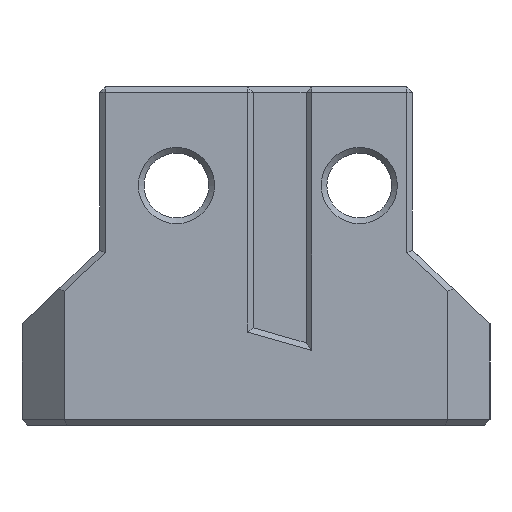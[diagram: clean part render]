
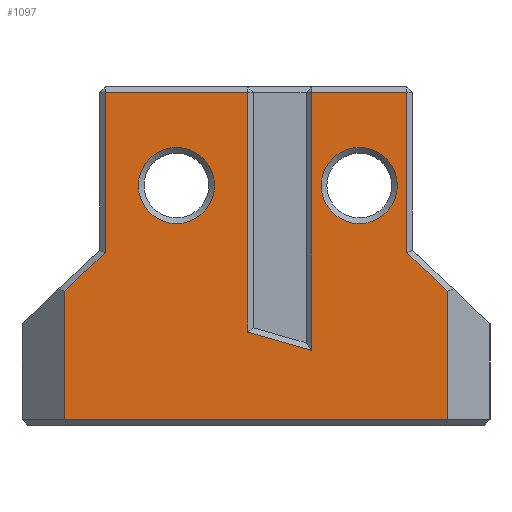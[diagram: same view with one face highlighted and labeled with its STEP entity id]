
A CAD part, left-side view. The second image highlights one B-rep face of the part: STEP entity #1097.
In plain terms, the highlighted planar face has unit normal (-1, 0, 0).
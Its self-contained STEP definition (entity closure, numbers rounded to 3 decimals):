
#25=FACE_BOUND('',#168,.T.);
#26=FACE_BOUND('',#169,.T.);
#41=PLANE('',#1185);
#99=FACE_OUTER_BOUND('',#167,.T.);
#167=EDGE_LOOP('',(#833,#834,#835,#836,#837,#838,#839,#840,#841,#842,#843,
#844));
#168=EDGE_LOOP('',(#845));
#169=EDGE_LOOP('',(#846));
#234=LINE('',#1617,#366);
#255=LINE('',#1659,#387);
#258=LINE('',#1665,#390);
#259=LINE('',#1667,#391);
#260=LINE('',#1669,#392);
#261=LINE('',#1671,#393);
#262=LINE('',#1673,#394);
#263=LINE('',#1675,#395);
#264=LINE('',#1677,#396);
#265=LINE('',#1679,#397);
#266=LINE('',#1681,#398);
#267=LINE('',#1682,#399);
#366=VECTOR('',#1296,10.);
#387=VECTOR('',#1337,10.);
#390=VECTOR('',#1342,10.);
#391=VECTOR('',#1343,10.);
#392=VECTOR('',#1344,10.);
#393=VECTOR('',#1345,10.);
#394=VECTOR('',#1346,10.);
#395=VECTOR('',#1347,10.);
#396=VECTOR('',#1348,10.);
#397=VECTOR('',#1349,10.);
#398=VECTOR('',#1350,10.);
#399=VECTOR('',#1351,10.);
#493=CIRCLE('',#1186,1.35);
#494=CIRCLE('',#1187,1.35);
#525=VERTEX_POINT('',#1614);
#526=VERTEX_POINT('',#1616);
#537=VERTEX_POINT('',#1658);
#539=VERTEX_POINT('',#1664);
#540=VERTEX_POINT('',#1666);
#541=VERTEX_POINT('',#1668);
#542=VERTEX_POINT('',#1670);
#543=VERTEX_POINT('',#1672);
#544=VERTEX_POINT('',#1674);
#545=VERTEX_POINT('',#1676);
#546=VERTEX_POINT('',#1678);
#547=VERTEX_POINT('',#1680);
#548=VERTEX_POINT('',#1683);
#549=VERTEX_POINT('',#1685);
#622=EDGE_CURVE('',#525,#526,#234,.T.);
#643=EDGE_CURVE('',#526,#537,#255,.T.);
#646=EDGE_CURVE('',#539,#525,#258,.T.);
#647=EDGE_CURVE('',#540,#539,#259,.T.);
#648=EDGE_CURVE('',#541,#540,#260,.T.);
#649=EDGE_CURVE('',#542,#541,#261,.T.);
#650=EDGE_CURVE('',#543,#542,#262,.T.);
#651=EDGE_CURVE('',#544,#543,#263,.T.);
#652=EDGE_CURVE('',#545,#544,#264,.T.);
#653=EDGE_CURVE('',#546,#545,#265,.T.);
#654=EDGE_CURVE('',#547,#546,#266,.T.);
#655=EDGE_CURVE('',#537,#547,#267,.T.);
#656=EDGE_CURVE('',#548,#548,#493,.T.);
#657=EDGE_CURVE('',#549,#549,#494,.T.);
#833=ORIENTED_EDGE('',*,*,#622,.F.);
#834=ORIENTED_EDGE('',*,*,#646,.F.);
#835=ORIENTED_EDGE('',*,*,#647,.F.);
#836=ORIENTED_EDGE('',*,*,#648,.F.);
#837=ORIENTED_EDGE('',*,*,#649,.F.);
#838=ORIENTED_EDGE('',*,*,#650,.F.);
#839=ORIENTED_EDGE('',*,*,#651,.F.);
#840=ORIENTED_EDGE('',*,*,#652,.F.);
#841=ORIENTED_EDGE('',*,*,#653,.F.);
#842=ORIENTED_EDGE('',*,*,#654,.F.);
#843=ORIENTED_EDGE('',*,*,#655,.F.);
#844=ORIENTED_EDGE('',*,*,#643,.F.);
#845=ORIENTED_EDGE('',*,*,#656,.F.);
#846=ORIENTED_EDGE('',*,*,#657,.F.);
#1097=ADVANCED_FACE('',(#99,#25,#26),#41,.T.);
#1185=AXIS2_PLACEMENT_3D('',#1663,#1340,#1341);
#1186=AXIS2_PLACEMENT_3D('',#1684,#1352,#1353);
#1187=AXIS2_PLACEMENT_3D('',#1686,#1354,#1355);
#1296=DIRECTION('',(0.,1.,0.));
#1337=DIRECTION('',(0.,0.,1.));
#1340=DIRECTION('center_axis',(-1.,0.,0.));
#1341=DIRECTION('ref_axis',(0.,-1.,0.));
#1342=DIRECTION('',(0.,0.,-1.));
#1343=DIRECTION('',(0.,-0.726,-0.688));
#1344=DIRECTION('',(0.,0.,-1.));
#1345=DIRECTION('',(0.,-1.,0.));
#1346=DIRECTION('',(0.,0.,1.));
#1347=DIRECTION('',(0.,-0.962,-0.275));
#1348=DIRECTION('',(0.,0.,-1.));
#1349=DIRECTION('',(0.,-1.,0.));
#1350=DIRECTION('',(0.,0.,1.));
#1351=DIRECTION('',(0.,-0.726,0.688));
#1352=DIRECTION('center_axis',(-1.,0.,0.));
#1353=DIRECTION('ref_axis',(0.,1.,0.));
#1354=DIRECTION('center_axis',(-1.,0.,0.));
#1355=DIRECTION('ref_axis',(0.,1.,0.));
#1614=CARTESIAN_POINT('',(13.4,14.15,6.2));
#1616=CARTESIAN_POINT('',(13.4,27.75,6.2));
#1617=CARTESIAN_POINT('',(13.4,25.1,6.2));
#1658=CARTESIAN_POINT('',(13.4,27.75,10.746));
#1659=CARTESIAN_POINT('',(13.4,27.75,6.));
#1663=CARTESIAN_POINT('Origin',(13.4,29.25,6.));
#1664=CARTESIAN_POINT('',(13.4,14.15,10.746));
#1665=CARTESIAN_POINT('',(13.4,14.15,6.));
#1666=CARTESIAN_POINT('',(13.4,15.6,12.121));
#1667=CARTESIAN_POINT('',(13.4,16.261,12.747));
#1668=CARTESIAN_POINT('',(13.4,15.6,17.8));
#1669=CARTESIAN_POINT('',(13.4,15.6,9.103));
#1670=CARTESIAN_POINT('',(13.4,18.974,17.8));
#1671=CARTESIAN_POINT('',(13.4,25.1,17.8));
#1672=CARTESIAN_POINT('',(13.4,18.974,8.655));
#1673=CARTESIAN_POINT('',(13.4,18.974,12.));
#1674=CARTESIAN_POINT('',(13.4,21.245,9.304));
#1675=CARTESIAN_POINT('',(13.4,23.97,10.082));
#1676=CARTESIAN_POINT('',(13.4,21.245,17.8));
#1677=CARTESIAN_POINT('',(13.4,21.245,12.));
#1678=CARTESIAN_POINT('',(13.4,26.3,17.8));
#1679=CARTESIAN_POINT('',(13.4,25.1,17.8));
#1680=CARTESIAN_POINT('',(13.4,26.3,12.12));
#1681=CARTESIAN_POINT('',(13.4,26.3,12.));
#1682=CARTESIAN_POINT('',(13.4,28.636,9.906));
#1683=CARTESIAN_POINT('',(13.4,22.423,14.5));
#1684=CARTESIAN_POINT('Origin',(13.4,23.773,14.5));
#1685=CARTESIAN_POINT('',(13.4,15.937,14.5));
#1686=CARTESIAN_POINT('Origin',(13.4,17.287,14.5));
